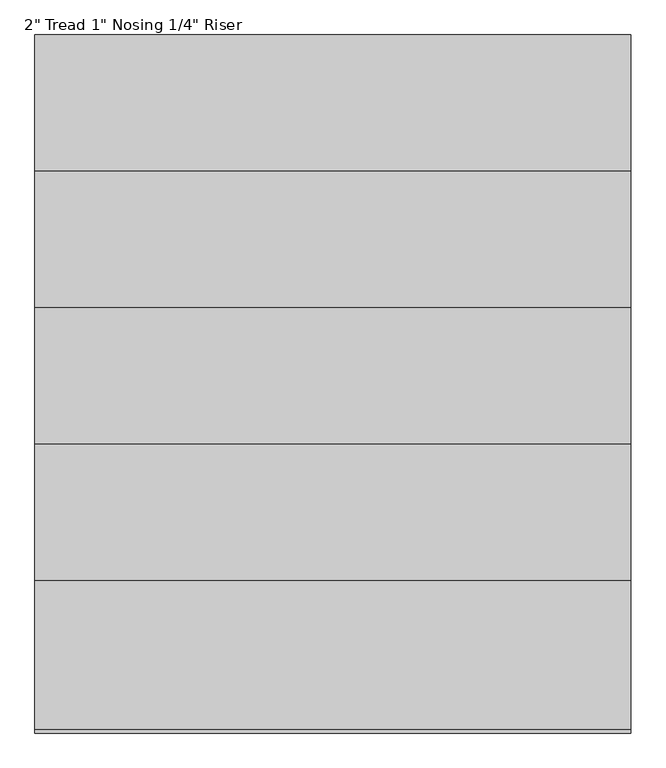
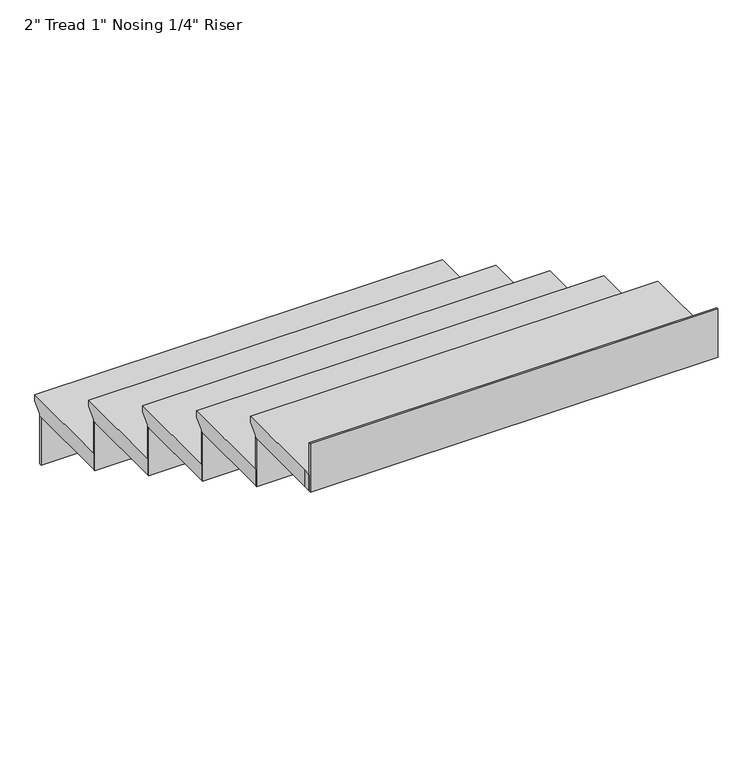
"""IFC4 building model written with IfcOpenShell, lengths in millimetres: stair flight geometry."""

import ifcopenshell
import ifcopenshell.guid

model = None  # the IFC model being written
_history = None  # IfcOwnerHistory: only IFC2X3 demands one
_inside = {}  # id of a spatial element -> (the spatial element, [elements in it])
_under = {}  # id of a project, library or spatial element -> (it, [spatial elements below it])
_declared = {}  # id of a project -> (the project, [libraries it declares])
_typed = {}  # id of a type object -> (the type object, [elements of that type])
_made_of = {}  # id of a material, layer set ... -> (it, [elements and type objects made of it])


def new_model(schema):
    """Start an empty IFC model of exactly this schema.

    Asked for "IFC4X3", IfcOpenShell would pick the latest addendum, in which some entities
    have other attributes; the version numbers below select the first issue.
    IFC2X3 requires an IfcOwnerHistory on every rooted entity: one is made here for all.
    """
    global model, _history
    if schema == "IFC4X3":
        model = ifcopenshell.file(schema_version=(4, 3, 0, 0))
    else:
        model = ifcopenshell.file(schema=schema)
    _inside.clear()
    _under.clear()
    _declared.clear()
    _typed.clear()
    _made_of.clear()
    _history = None
    if model.schema == "IFC2X3":
        org = make("IfcOrganization", Name="unknown")
        user = make(
            "IfcPersonAndOrganization",
            ThePerson=make("IfcPerson", FamilyName="unknown"),
            TheOrganization=org,
        )
        app = make(
            "IfcApplication",
            ApplicationDeveloper=org,
            Version="unknown",
            ApplicationFullName="unknown",
            ApplicationIdentifier="unknown",
        )
        _history = make(
            "IfcOwnerHistory",
            OwningUser=user,
            OwningApplication=app,
            ChangeAction="ADDED",
            CreationDate=0,
        )
    return model


def make(cls, **values):
    """One entity of the class cls with the attributes given. An attribute that is None is left unset."""
    return model.create_entity(
        cls, **{name: value for name, value in values.items() if value is not None}
    )


def rooted(cls, **values):
    """An entity with a GlobalId (a new one), such as an element, a storey or a relation."""
    return make(cls, GlobalId=ifcopenshell.guid.new(), OwnerHistory=_history, **values)


def si_unit(unit_type, name, prefix=None):
    """IfcSIUnit, for example si_unit("LENGTHUNIT", "METRE", prefix="MILLI")."""
    return make("IfcSIUnit", UnitType=unit_type, Prefix=prefix, Name=name)


def assignment(units):
    """IfcUnitAssignment: the units of a project."""
    return None if units is None else make("IfcUnitAssignment", Units=units)


def point(xyz):
    """IfcCartesianPoint."""
    return None if xyz is None else make("IfcCartesianPoint", Coordinates=xyz)


def direction(xyz):
    """IfcDirection."""
    return None if xyz is None else make("IfcDirection", DirectionRatios=xyz)


def frame(location, z_axis=None, x_axis=None):
    """IfcAxis2Placement3D, a coordinate frame: its origin and axes. An axis left out is left unset."""
    return make(
        "IfcAxis2Placement3D",
        Location=point(location),
        Axis=direction(z_axis),
        RefDirection=direction(x_axis),
    )


def origin():
    """The frame at (0, 0, 0) with its axes left unset."""
    return frame((0.0, 0.0, 0.0))


def place(relative_to, where):
    """IfcLocalPlacement: puts the frame where relative to a parent placement (None: the world)."""
    return make(
        "IfcLocalPlacement", PlacementRelTo=relative_to, RelativePlacement=where
    )


def context(
    kind, dimensions, precision=None, world=None, true_north=None, identifier=None
):
    """IfcGeometricRepresentationContext, for example the 3D "Model" context."""
    return make(
        "IfcGeometricRepresentationContext",
        ContextIdentifier=identifier,
        ContextType=kind,
        CoordinateSpaceDimension=dimensions,
        Precision=precision,
        WorldCoordinateSystem=world,
        TrueNorth=true_north,
    )


def project(units=None, contexts=None):
    """IfcProject with its units and contexts."""
    return rooted(
        "IfcProject",
        Name="project",
        RepresentationContexts=contexts,
        UnitsInContext=assignment(units),
    )


def spatial(cls, under=None, at=None, **own):
    """A site, building, storey or space (cls), placed at a placement, below another one or the project."""
    s = rooted(cls, ObjectPlacement=at, **own)
    if under is not None:
        _under.setdefault(under.id(), (under, []))[1].append(s)
    return s


def faces_of(points, faces, orient=None, outer=None):
    """IfcFace entities. A face is a list of loops; a loop is a list of indices into points, from 0.

    orient and outer hold one flag for each loop. By default every Orientation is true, the
    first loop of a face is its IfcFaceOuterBound and the others are IfcFaceBound.
    """
    made = []
    for i, loops in enumerate(faces):
        bounds = []
        for j, loop in enumerate(loops):
            is_outer = j == 0 if outer is None else outer[i][j]
            bounds.append(
                make(
                    "IfcFaceOuterBound" if is_outer else "IfcFaceBound",
                    Bound=make("IfcPolyLoop", Polygon=[points[k] for k in loop]),
                    Orientation=True if orient is None else orient[i][j],
                )
            )
        made.append(make("IfcFace", Bounds=bounds))
    return made


def faceted_brep(points, faces, orient=None, outer=None, voids=None):
    """IfcFacetedBrep: a solid bounded by flat faces; with voids (closed shells), ...WithVoids."""
    shared = [point(p) for p in points]
    hull = make("IfcClosedShell", CfsFaces=faces_of(shared, faces, orient, outer))
    if voids is None:
        return make("IfcFacetedBrep", Outer=hull)
    return make(
        "IfcFacetedBrepWithVoids",
        Outer=hull,
        Voids=[
            make(cls, CfsFaces=faces_of(shared, fs, o, b)) for cls, fs, o, b in voids
        ],
    )


def shape(context_of_items, identifier, shape_type, items):
    """IfcShapeRepresentation: the items that make up one representation, for example the "Body"."""
    return make(
        "IfcShapeRepresentation",
        ContextOfItems=context_of_items,
        RepresentationIdentifier=identifier,
        RepresentationType=shape_type,
        Items=items,
    )


def source(mapping_origin, context_of_items, identifier, shape_type, items):
    """IfcRepresentationMap: a shape defined once, which mapped items show again and again."""
    return make(
        "IfcRepresentationMap",
        MappingOrigin=mapping_origin,
        MappedRepresentation=shape(context_of_items, identifier, shape_type, items),
    )


def transform(
    local_origin,
    x_axis=None,
    y_axis=None,
    z_axis=None,
    scale=None,
    scale2=None,
    scale3=None,
    uniform=True,
):
    """IfcCartesianTransformationOperator3D, or its non-uniform kind. x_axis, y_axis, z_axis: its Axis1, 2, 3."""
    if uniform:
        return make(
            "IfcCartesianTransformationOperator3D",
            Axis1=direction(x_axis),
            Axis2=direction(y_axis),
            LocalOrigin=point(local_origin),
            Scale=scale,
            Axis3=direction(z_axis),
        )
    return make(
        "IfcCartesianTransformationOperator3DnonUniform",
        Axis1=direction(x_axis),
        Axis2=direction(y_axis),
        LocalOrigin=point(local_origin),
        Scale=scale,
        Axis3=direction(z_axis),
        Scale2=scale2,
        Scale3=scale3,
    )


def mapped(mapping_source, mapping_target):
    """IfcMappedItem: shows the shape of a source again, moved by a transform."""
    return make(
        "IfcMappedItem", MappingSource=mapping_source, MappingTarget=mapping_target
    )


def made_of(thing, what):
    """Note that an element or type object is made of a material, layer set ...; save() writes the relation."""
    if what is not None:
        _made_of.setdefault(what.id(), (what, []))[1].append(thing)
    return thing


def element(
    cls,
    number,
    at=None,
    inside=None,
    cuts=None,
    type_object=None,
    material=None,
    context=None,
    identifier="Body",
    shape_type=None,
    held_by="IfcProductDefinitionShape",
    body=None,
    shapes=None,
    **own,
):
    """One element of the class cls, such as IfcWall. Its Tag is "e" and its number.

    at: its placement. inside: the storey or other place that contains it. cuts: it is an
    opening in that element (IfcRelVoidsElement). A single representation is given by context,
    identifier, shape_type and body (its items); several are given by shapes. held_by: the class
    of the entity that holds the representations. save() writes the other relations.
    """
    e = rooted(cls, Tag="e%d" % number, ObjectPlacement=at, **own)
    if body is not None:
        shapes = [shape(context, identifier, shape_type, body)]
    if shapes is not None:
        e.Representation = make(held_by, Representations=shapes)
    if inside is not None:
        _inside.setdefault(inside.id(), (inside, []))[1].append(e)
    if cuts is not None:
        rooted(
            "IfcRelVoidsElement", RelatingBuildingElement=cuts, RelatedOpeningElement=e
        )
    if type_object is not None:
        _typed.setdefault(type_object.id(), (type_object, []))[1].append(e)
    return made_of(e, material)


def aggregate(whole, parts):
    """IfcRelAggregates: a whole, such as a stair, and the parts it consists of."""
    return rooted("IfcRelAggregates", RelatingObject=whole, RelatedObjects=parts)


def save(model, path):
    """Write the relations noted so far, then the file.

    IfcRelAggregates (storeys below a building ...), IfcRelContainedInSpatialStructure (elements
    in a storey), IfcRelDefinesByType, IfcRelAssociatesMaterial and IfcRelDeclares: one each for
    every whole, place, type object, material and project.
    """
    for whole, parts in _under.values():
        aggregate(whole, parts)
    for where, things in _inside.values():
        rooted(
            "IfcRelContainedInSpatialStructure",
            RelatedElements=things,
            RelatingStructure=where,
        )
    for kind, things in _typed.values():
        rooted("IfcRelDefinesByType", RelatedObjects=things, RelatingType=kind)
    for what, things in _made_of.values():
        rooted("IfcRelAssociatesMaterial", RelatedObjects=things, RelatingMaterial=what)
    for by, libraries in _declared.values():
        rooted("IfcRelDeclares", RelatingContext=by, RelatedDefinitions=libraries)
    model.write(path)


def stair_flight_575d9705(model_context):
    return source(origin(), model_context, "Body", "Brep", [
        faceted_brep([(18450.2726301, 7675.3746638, 1962.15), (18450.2726301, 7675.3746638, 1981.2), (19669.4726301, 7675.3746638, 1981.2), (19669.4726301, 7675.3746638, 1962.15), (18450.2726301, 7649.9746638, 1936.75), (19669.4726301, 7649.9746638, 1936.75), (18450.2726301, 7370.5746638, 1981.2), (19669.4726301, 7370.5746638, 1981.2), (19669.4726301, 7649.9746638, 1930.4), (19669.4726301, 7370.5746638, 1930.4), (18450.2726301, 7370.5746638, 1930.4), (18450.2726301, 7649.9746638, 1930.4)], [[[0, 1, 2, 3]], [[4, 0, 3, 5]], [[2, 1, 6, 7]], [[8, 9, 10, 11]], [[2, 7, 9, 8, 5, 3]], [[8, 11, 4, 5]], [[6, 1, 0, 4, 11, 10]], [[7, 6, 10, 9]]]),
        faceted_brep([(18450.2726301, 7649.9746638, 1930.4), (18450.2726301, 7649.9746638, 1778.0), (18450.2726301, 7643.6246638, 1778.0), (18450.2726301, 7643.6246638, 1930.4), (19669.4726301, 7649.9746638, 1930.4), (19669.4726301, 7643.6246638, 1930.4), (19669.4726301, 7643.6246638, 1778.0), (19669.4726301, 7649.9746638, 1778.0)], [[[0, 1, 2, 3]], [[4, 5, 6, 7]], [[1, 0, 4, 7]], [[2, 1, 7, 6]], [[3, 2, 6, 5]], [[0, 3, 5, 4]]]),
        faceted_brep([(18450.2726301, 7370.5746638, 2082.8), (18450.2726301, 7370.5746638, 1930.4), (18450.2726301, 7364.2246638, 1930.4), (18450.2726301, 7364.2246638, 2082.8), (19669.4726301, 7370.5746638, 2082.8), (19669.4726301, 7364.2246638, 2082.8), (19669.4726301, 7364.2246638, 1930.4), (19669.4726301, 7370.5746638, 1930.4)], [[[0, 1, 2, 3]], [[4, 5, 6, 7]], [[1, 0, 4, 7]], [[2, 1, 7, 6]], [[3, 2, 6, 5]], [[0, 3, 5, 4]]]),
        faceted_brep([(19669.4726301, 7395.9746638, 2133.6), (18450.2726301, 7395.9746638, 2133.6), (18450.2726301, 7091.1746638, 2133.6), (19669.4726301, 7091.1746638, 2133.6), (19669.4726301, 7370.5746638, 2082.8), (19669.4726301, 7091.1746638, 2082.8), (18450.2726301, 7091.1746638, 2082.8), (18450.2726301, 7370.5746638, 2082.8), (19669.4726301, 7370.5746638, 2089.15), (19669.4726301, 7395.9746638, 2114.55), (18450.2726301, 7370.5746638, 2089.15), (18450.2726301, 7395.9746638, 2114.55)], [[[0, 1, 2, 3]], [[4, 5, 6, 7]], [[0, 3, 5, 4, 8, 9]], [[4, 7, 10, 8]], [[2, 1, 11, 10, 7, 6]], [[3, 2, 6, 5]], [[11, 1, 0, 9]], [[10, 11, 9, 8]]]),
        faceted_brep([(18450.2726301, 7091.1746638, 2235.2), (18450.2726301, 7091.1746638, 2082.8), (18450.2726301, 7084.8246638, 2082.8), (18450.2726301, 7084.8246638, 2235.2), (19669.4726301, 7091.1746638, 2235.2), (19669.4726301, 7084.8246638, 2235.2), (19669.4726301, 7084.8246638, 2082.8), (19669.4726301, 7091.1746638, 2082.8)], [[[0, 1, 2, 3]], [[4, 5, 6, 7]], [[1, 0, 4, 7]], [[2, 1, 7, 6]], [[3, 2, 6, 5]], [[0, 3, 5, 4]]]),
        faceted_brep([(19669.4726301, 7116.5746638, 2286.0), (18450.2726301, 7116.5746638, 2286.0), (18450.2726301, 6811.7746638, 2286.0), (19669.4726301, 6811.7746638, 2286.0), (19669.4726301, 7091.1746638, 2235.2), (19669.4726301, 6811.7746638, 2235.2), (18450.2726301, 6811.7746638, 2235.2), (18450.2726301, 7091.1746638, 2235.2), (19669.4726301, 7091.1746638, 2241.55), (19669.4726301, 7116.5746638, 2266.95), (18450.2726301, 7091.1746638, 2241.55), (18450.2726301, 7116.5746638, 2266.95)], [[[0, 1, 2, 3]], [[4, 5, 6, 7]], [[0, 3, 5, 4, 8, 9]], [[4, 7, 10, 8]], [[2, 1, 11, 10, 7, 6]], [[3, 2, 6, 5]], [[11, 1, 0, 9]], [[10, 11, 9, 8]]]),
        faceted_brep([(18450.2726301, 6811.7746638, 2387.6), (18450.2726301, 6811.7746638, 2235.2), (18450.2726301, 6805.4246638, 2235.2), (18450.2726301, 6805.4246638, 2387.6), (19669.4726301, 6811.7746638, 2387.6), (19669.4726301, 6805.4246638, 2387.6), (19669.4726301, 6805.4246638, 2235.2), (19669.4726301, 6811.7746638, 2235.2)], [[[0, 1, 2, 3]], [[4, 5, 6, 7]], [[1, 0, 4, 7]], [[2, 1, 7, 6]], [[3, 2, 6, 5]], [[0, 3, 5, 4]]]),
        faceted_brep([(19669.4726301, 6837.1746638, 2438.4), (18450.2726301, 6837.1746638, 2438.4), (18450.2726301, 6532.3746638, 2438.4), (19669.4726301, 6532.3746638, 2438.4), (19669.4726301, 6811.7746638, 2387.6), (19669.4726301, 6532.3746638, 2387.6), (18450.2726301, 6532.3746638, 2387.6), (18450.2726301, 6811.7746638, 2387.6), (19669.4726301, 6811.7746638, 2393.95), (19669.4726301, 6837.1746638, 2419.35), (18450.2726301, 6811.7746638, 2393.95), (18450.2726301, 6837.1746638, 2419.35)], [[[0, 1, 2, 3]], [[4, 5, 6, 7]], [[0, 3, 5, 4, 8, 9]], [[4, 7, 10, 8]], [[2, 1, 11, 10, 7, 6]], [[3, 2, 6, 5]], [[11, 1, 0, 9]], [[10, 11, 9, 8]]]),
        faceted_brep([(18450.2726301, 6252.9746638, 2692.4), (18450.2726301, 6252.9746638, 2540.0), (18450.2726301, 6246.6246638, 2540.0), (18450.2726301, 6246.6246638, 2692.4), (19669.4726301, 6252.9746638, 2692.4), (19669.4726301, 6246.6246638, 2692.4), (19669.4726301, 6246.6246638, 2540.0), (19669.4726301, 6252.9746638, 2540.0)], [[[0, 1, 2, 3]], [[4, 5, 6, 7]], [[1, 0, 4, 7]], [[2, 1, 7, 6]], [[3, 2, 6, 5]], [[0, 3, 5, 4]]]),
        faceted_brep([(18450.2726301, 6532.3746638, 2540.0), (18450.2726301, 6532.3746638, 2387.6), (18450.2726301, 6526.0246638, 2387.6), (18450.2726301, 6526.0246638, 2540.0), (19669.4726301, 6532.3746638, 2540.0), (19669.4726301, 6526.0246638, 2540.0), (19669.4726301, 6526.0246638, 2387.6), (19669.4726301, 6532.3746638, 2387.6)], [[[0, 1, 2, 3]], [[4, 5, 6, 7]], [[1, 0, 4, 7]], [[2, 1, 7, 6]], [[3, 2, 6, 5]], [[0, 3, 5, 4]]]),
        faceted_brep([(19669.4726301, 6252.9746638, 2590.8), (19669.4726301, 6278.3746638, 2590.8), (19669.4726301, 6557.7746638, 2590.8), (18450.2726301, 6557.7746638, 2590.8), (18450.2726301, 6278.3746638, 2590.8), (18450.2726301, 6252.9746638, 2590.8), (19669.4726301, 6278.3746638, 2540.0), (19669.4726301, 6252.9746638, 2540.0), (18450.2726301, 6252.9746638, 2540.0), (18450.2726301, 6278.3746638, 2540.0), (18450.2726301, 6532.3746638, 2540.0), (19669.4726301, 6532.3746638, 2540.0), (19669.4726301, 6532.3746638, 2546.35), (19669.4726301, 6557.7746638, 2571.75), (18450.2726301, 6532.3746638, 2546.35), (18450.2726301, 6557.7746638, 2571.75)], [[[0, 1, 2, 3, 4, 5]], [[6, 7, 8, 9, 10, 11]], [[1, 0, 7, 6]], [[2, 1, 6, 11, 12, 13]], [[11, 10, 14, 12]], [[4, 3, 15, 14, 10, 9]], [[5, 4, 9, 8]], [[0, 5, 8, 7]], [[15, 3, 2, 13]], [[14, 15, 13, 12]]]),
    ])


if __name__ == "__main__":
    model = new_model("IFC4")
    model_context = context("Model", 3, world=origin())
    ifc_project = project(units=[si_unit("LENGTHUNIT", "METRE", prefix="MILLI")], contexts=[model_context])
    site = spatial("IfcSite", under=ifc_project)
    building = spatial("IfcBuilding", under=site)
    placement = place(None, origin())
    stair_flight_shape = stair_flight_575d9705(model_context)
    element("IfcStairFlight", 1, ObjectType="2\" Tread 1\" Nosing 1/4\" Riser", at=placement, inside=building, context=model_context, shape_type="MappedRepresentation", body=[
        mapped(stair_flight_shape, transform((0.0, 0.0, 0.0), x_axis=(1.0, 0.0, 0.0), y_axis=(0.0, 1.0, 0.0), z_axis=(0.0, 0.0, 1.0))),
    ])
    save(model, "model.ifc")
